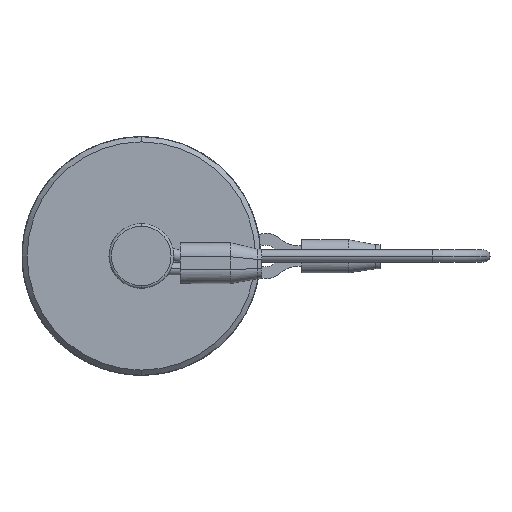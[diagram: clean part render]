
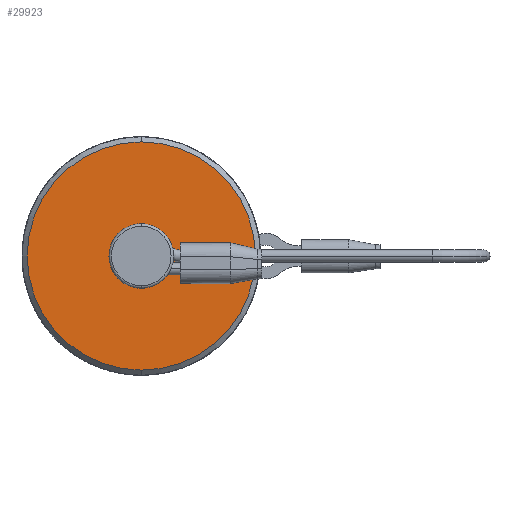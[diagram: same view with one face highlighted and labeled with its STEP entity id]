
A CAD part, left-side view. The second image highlights one B-rep face of the part: STEP entity #29923.
In plain terms, the highlighted planar face has unit normal (-1, 0, 0).
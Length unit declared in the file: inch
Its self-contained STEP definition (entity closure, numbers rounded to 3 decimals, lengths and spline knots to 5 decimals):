
#4419 = CARTESIAN_POINT ( 'NONE',  ( 0.25, 0., 0.8825 ) ) ;
#10118 = ORIENTED_EDGE ( 'NONE', *, *, #47800, .F. ) ;
#13078 = ORIENTED_EDGE ( 'NONE', *, *, #84099, .F. ) ;
#14839 = DIRECTION ( 'NONE',  ( 0., 0., -1. ) ) ;
#15900 = EDGE_CURVE ( 'NONE', #47077, #81457, #49738, .T. ) ;
#17759 = CARTESIAN_POINT ( 'NONE',  ( 0.25, 0., -0.8825 ) ) ;
#25568 = PLANE ( 'NONE',  #43596 ) ;
#29923 = ADVANCED_FACE ( 'NONE', ( #98642, #43668 ), #25568, .T. ) ;
#31835 = VERTEX_POINT ( 'NONE', #4419 ) ;
#38100 = CARTESIAN_POINT ( 'NONE',  ( 0.25, 0., 0.25 ) ) ;
#40478 = CIRCLE ( 'NONE', #93265, 0.25 ) ;
#41438 = VERTEX_POINT ( 'NONE', #17759 ) ;
#42618 = DIRECTION ( 'NONE',  ( 0., 0., 1. ) ) ;
#43169 = DIRECTION ( 'NONE',  ( 1., 0., 0. ) ) ;
#43488 = DIRECTION ( 'NONE',  ( 0., 0., -1. ) ) ;
#43596 = AXIS2_PLACEMENT_3D ( 'NONE', #83138, #58057, #42618 ) ;
#43668 = FACE_OUTER_BOUND ( 'NONE', #55022, .T. ) ;
#47077 = VERTEX_POINT ( 'NONE', #79373 ) ;
#47800 = EDGE_CURVE ( 'NONE', #41438, #31835, #77658, .T. ) ;
#49738 = CIRCLE ( 'NONE', #90598, 0.25 ) ;
#52546 = DIRECTION ( 'NONE',  ( 1., 0., 0. ) ) ;
#55022 = EDGE_LOOP ( 'NONE', ( #10118, #13078 ) ) ;
#58057 = DIRECTION ( 'NONE',  ( -1., 0., 0. ) ) ;
#61643 = ORIENTED_EDGE ( 'NONE', *, *, #66164, .T. ) ;
#64508 = DIRECTION ( 'NONE',  ( 0., 0., -1. ) ) ;
#66164 = EDGE_CURVE ( 'NONE', #81457, #47077, #40478, .T. ) ;
#69250 = CARTESIAN_POINT ( 'NONE',  ( 0.25, 0., 0. ) ) ;
#72535 = DIRECTION ( 'NONE',  ( 1., 0., 0. ) ) ;
#77658 = CIRCLE ( 'NONE', #84504, 0.8825 ) ;
#79373 = CARTESIAN_POINT ( 'NONE',  ( 0.25, 0., -0.25 ) ) ;
#80032 = CARTESIAN_POINT ( 'NONE',  ( 0.25, 0., 0. ) ) ;
#81457 = VERTEX_POINT ( 'NONE', #38100 ) ;
#83138 = CARTESIAN_POINT ( 'NONE',  ( 0.25, 0.8825, 0. ) ) ;
#83899 = EDGE_LOOP ( 'NONE', ( #90965, #61643 ) ) ;
#84099 = EDGE_CURVE ( 'NONE', #31835, #41438, #90486, .T. ) ;
#84504 = AXIS2_PLACEMENT_3D ( 'NONE', #80032, #72535, #64508 ) ;
#85775 = CARTESIAN_POINT ( 'NONE',  ( 0.25, 0., 0. ) ) ;
#86812 = DIRECTION ( 'NONE',  ( 1., 0., 0. ) ) ;
#90486 = CIRCLE ( 'NONE', #97351, 0.8825 ) ;
#90598 = AXIS2_PLACEMENT_3D ( 'NONE', #92522, #52546, #43488 ) ;
#90965 = ORIENTED_EDGE ( 'NONE', *, *, #15900, .T. ) ;
#92522 = CARTESIAN_POINT ( 'NONE',  ( 0.25, 0., 0. ) ) ;
#93265 = AXIS2_PLACEMENT_3D ( 'NONE', #69250, #43169, #101846 ) ;
#97351 = AXIS2_PLACEMENT_3D ( 'NONE', #85775, #86812, #14839 ) ;
#98642 = FACE_BOUND ( 'NONE', #83899, .T. ) ;
#101846 = DIRECTION ( 'NONE',  ( 0., 0., -1. ) ) ;
